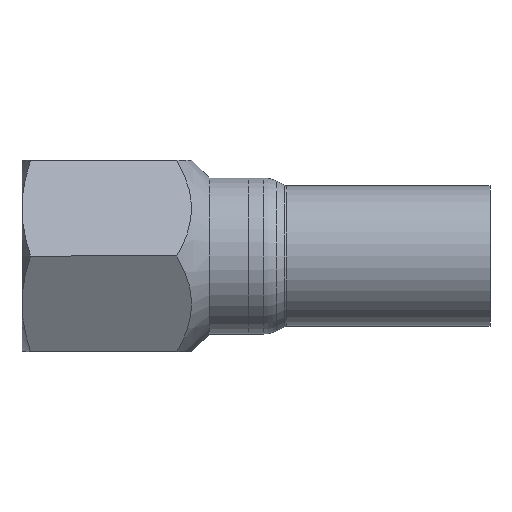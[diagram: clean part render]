
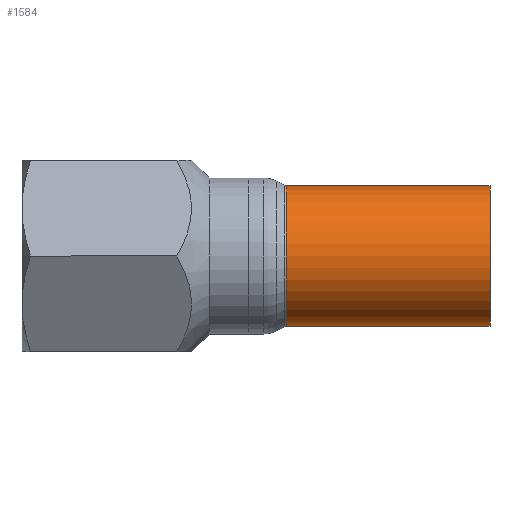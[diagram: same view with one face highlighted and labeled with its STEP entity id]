
A CAD part, front view. The second image highlights one B-rep face of the part: STEP entity #1584.
In plain terms, the highlighted cylindrical face has radius 9 mm (diameter 18 mm), a partial arc.
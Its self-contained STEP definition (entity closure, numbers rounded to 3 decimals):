
#17 = DIRECTION ( 'NONE',  ( 1., 0., 0. ) ) ;
#36 = DIRECTION ( 'NONE',  ( 1., 0., 0. ) ) ;
#42 = DIRECTION ( 'NONE',  ( 0., 0., -1. ) ) ;
#70 = ORIENTED_EDGE ( 'NONE', *, *, #1192, .F. ) ;
#210 = EDGE_LOOP ( 'NONE', ( #70, #1454, #1381, #1537 ) ) ;
#213 = CARTESIAN_POINT ( 'NONE',  ( 0., 0., -9. ) ) ;
#248 = CARTESIAN_POINT ( 'NONE',  ( 31., 0., 9. ) ) ;
#303 = AXIS2_PLACEMENT_3D ( 'NONE', #760, #540, #942 ) ;
#315 = CARTESIAN_POINT ( 'NONE',  ( 4.878, 0., -9. ) ) ;
#404 = LINE ( 'NONE', #1621, #748 ) ;
#481 = VERTEX_POINT ( 'NONE', #248 ) ;
#540 = DIRECTION ( 'NONE',  ( 1., 0., 0. ) ) ;
#543 = DIRECTION ( 'NONE',  ( 0., 0., -1. ) ) ;
#583 = EDGE_CURVE ( 'NONE', #1156, #1492, #1347, .T. ) ;
#683 = CYLINDRICAL_SURFACE ( 'NONE', #721, 9. ) ;
#721 = AXIS2_PLACEMENT_3D ( 'NONE', #1598, #1091, #42 ) ;
#748 = VECTOR ( 'NONE', #36, 1000. ) ;
#760 = CARTESIAN_POINT ( 'NONE',  ( 31., 0., 0. ) ) ;
#875 = DIRECTION ( 'NONE',  ( 1., 0., 0. ) ) ;
#942 = DIRECTION ( 'NONE',  ( 0., 0., -1. ) ) ;
#977 = CIRCLE ( 'NONE', #303, 9. ) ;
#1091 = DIRECTION ( 'NONE',  ( 1., 0., 0. ) ) ;
#1105 = EDGE_CURVE ( 'NONE', #481, #1634, #977, .T. ) ;
#1156 = VERTEX_POINT ( 'NONE', #1472 ) ;
#1192 = EDGE_CURVE ( 'NONE', #1156, #481, #404, .T. ) ;
#1211 = AXIS2_PLACEMENT_3D ( 'NONE', #1587, #17, #543 ) ;
#1223 = CARTESIAN_POINT ( 'NONE',  ( 31., 0., -9. ) ) ;
#1335 = EDGE_CURVE ( 'NONE', #1492, #1634, #1658, .T. ) ;
#1347 = CIRCLE ( 'NONE', #1211, 9. ) ;
#1381 = ORIENTED_EDGE ( 'NONE', *, *, #1335, .T. ) ;
#1403 = FACE_OUTER_BOUND ( 'NONE', #210, .T. ) ;
#1454 = ORIENTED_EDGE ( 'NONE', *, *, #583, .T. ) ;
#1472 = CARTESIAN_POINT ( 'NONE',  ( 4.878, 0., 9. ) ) ;
#1492 = VERTEX_POINT ( 'NONE', #315 ) ;
#1519 = VECTOR ( 'NONE', #875, 1000. ) ;
#1537 = ORIENTED_EDGE ( 'NONE', *, *, #1105, .F. ) ;
#1584 = ADVANCED_FACE ( 'NONE', ( #1403 ), #683, .T. ) ;
#1587 = CARTESIAN_POINT ( 'NONE',  ( 4.878, 0., 0. ) ) ;
#1598 = CARTESIAN_POINT ( 'NONE',  ( 0., 0., 0. ) ) ;
#1621 = CARTESIAN_POINT ( 'NONE',  ( 0., 0., 9. ) ) ;
#1634 = VERTEX_POINT ( 'NONE', #1223 ) ;
#1658 = LINE ( 'NONE', #213, #1519 ) ;
